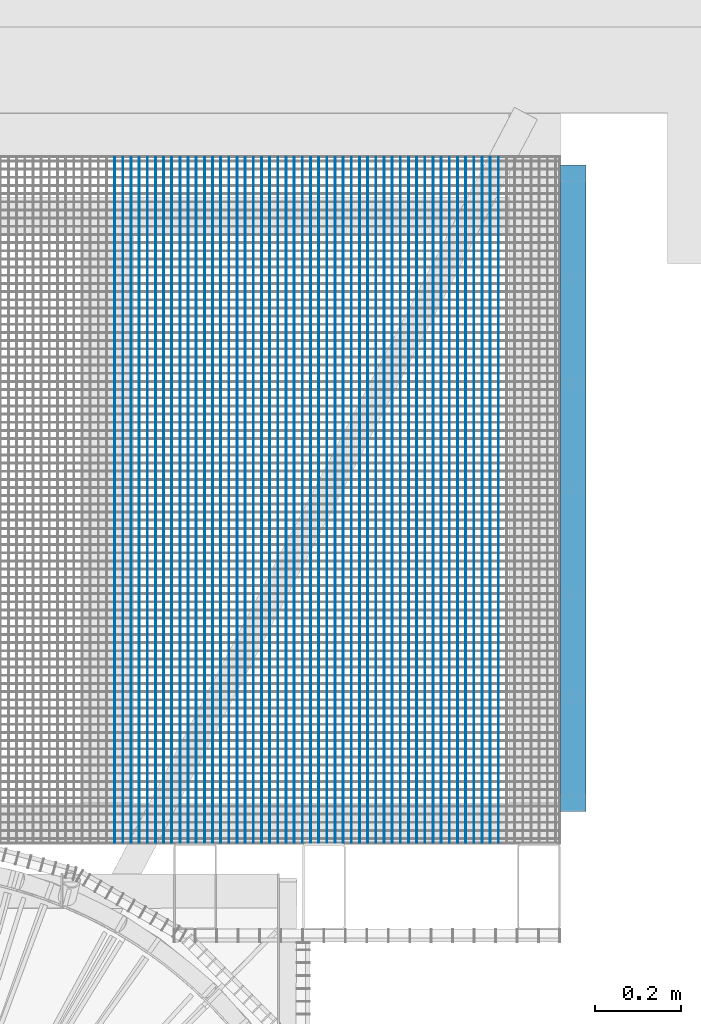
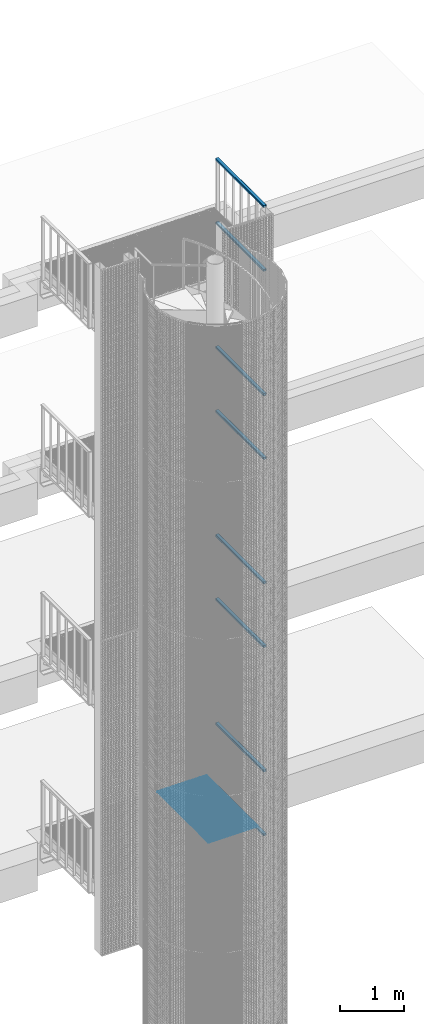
# One storey, part 89 of 1183: 56 beams, 9 elements without a shape of their own.
"""IFC2X3 building model written with IfcOpenShell, lengths in millimetres."""

from ifc_helpers import new_model, si_unit, frame, origin_with_axes, origin_2d_with_axis, place, context, subcontext, project, spatial, rectangle, hollow_rectangle, extrude, material, type_object, element, aggregate, save


model = new_model("IFC2X3")

# Units and contexts
model_context = context("Model", 3, precision=1e-05, world=origin_with_axes())
body_context = subcontext(model_context, "Body", "Model", "MODEL_VIEW")
ifc_project = project(units=[si_unit("LENGTHUNIT", "METRE", prefix="MILLI"), si_unit("AREAUNIT", "SQUARE_METRE"), si_unit("VOLUMEUNIT", "CUBIC_METRE"), si_unit("MASSUNIT", "GRAM", prefix="KILO"), si_unit("TIMEUNIT", "SECOND"), si_unit("PLANEANGLEUNIT", "RADIAN"), si_unit("SOLIDANGLEUNIT", "STERADIAN"), si_unit("THERMODYNAMICTEMPERATUREUNIT", "DEGREE_CELSIUS"), si_unit("LUMINOUSINTENSITYUNIT", "LUMEN")], contexts=[model_context])

# Site, building, storey
site_placement = place(None, origin_with_axes())
site = spatial("IfcSite", under=ifc_project, at=site_placement, Name="Undefined", CompositionType="ELEMENT")
building_placement = place(site_placement, origin_with_axes())
building = spatial("IfcBuilding", under=site, at=building_placement, Name="Undefined", CompositionType="ELEMENT")
storey_placement = place(building_placement, origin_with_axes())
storey = spatial("IfcBuildingStorey", under=building, at=storey_placement, Name="Undefined", CompositionType="ELEMENT", Elevation=0.0)

# Assembly, beams
assembly_1_placement = place(storey_placement, origin_with_axes())
assembly_1 = element("IfcElementAssembly", 1, at=assembly_1_placement, inside=storey, Name="BORDURE", AssemblyPlace="NOTDEFINED", PredefinedType="NOTDEFINED")
ifc_material = material(Name="STEEL/S235JR")
beam_type_1 = type_object("IfcBeamType", Name="PL2*10", PredefinedType="NOTDEFINED")
beam_1_placement = place(assembly_1_placement, frame((513.075424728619, 1102.00484400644, 6485.0), z_axis=(0.0, 0.0, 1.0), x_axis=(-4.50599999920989e-06, 0.999999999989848, 0.0)))
beam_1 = element("IfcBeam", 2, at=beam_1_placement, type_object=beam_type_1, material=ifc_material, Name="ENTRETOISE", context=body_context, shape_type="SweptSolid", body=[
    extrude(rectangle(XDim=2.0, YDim=10.0, at=origin_2d_with_axis()), frame((1596.0000000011, -1.35186458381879e-18, -7.27595761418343e-12), z_axis=(-1.0, 0.0, 0.0), x_axis=(0.0, -1.0, 0.0)), (0.0, 0.0, 1.0), 1596.0),
])
beam_2_placement = place(assembly_1_placement, frame((532.075424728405, 1102.00493752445, 6485.0), z_axis=(0.0, 0.0, 1.0), x_axis=(-4.50599999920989e-06, 0.999999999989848, 0.0)))
beam_2 = element("IfcBeam", 3, at=beam_2_placement, type_object=beam_type_1, material=ifc_material, Name="ENTRETOISE", context=body_context, shape_type="SweptSolid", body=[
    extrude(rectangle(XDim=2.0, YDim=10.0, at=origin_2d_with_axis()), frame((1596.0000000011, -1.35186458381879e-18, -7.27595761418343e-12), z_axis=(-1.0, 0.0, 0.0), x_axis=(0.0, -1.0, 0.0)), (0.0, 0.0, 1.0), 1596.0),
])
beam_3_placement = place(assembly_1_placement, frame((551.075424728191, 1102.00503104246, 6485.0), z_axis=(0.0, 0.0, 1.0), x_axis=(-4.50599999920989e-06, 0.999999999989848, 0.0)))
beam_3 = element("IfcBeam", 4, at=beam_3_placement, type_object=beam_type_1, material=ifc_material, Name="ENTRETOISE", context=body_context, shape_type="SweptSolid", body=[
    extrude(rectangle(XDim=2.0, YDim=10.0, at=origin_2d_with_axis()), frame((1596.0000000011, -1.35186458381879e-18, -7.27595761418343e-12), z_axis=(-1.0, 0.0, 0.0), x_axis=(0.0, -1.0, 0.0)), (0.0, 0.0, 1.0), 1596.0),
])
beam_4_placement = place(assembly_1_placement, frame((570.075424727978, 1102.00512456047, 6485.0), z_axis=(0.0, 0.0, 1.0), x_axis=(-4.50599999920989e-06, 0.999999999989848, 0.0)))
beam_4 = element("IfcBeam", 5, at=beam_4_placement, type_object=beam_type_1, material=ifc_material, Name="ENTRETOISE", context=body_context, shape_type="SweptSolid", body=[
    extrude(rectangle(XDim=2.0, YDim=10.0, at=origin_2d_with_axis()), frame((1596.0000000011, -1.35186458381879e-18, -7.27595761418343e-12), z_axis=(-1.0, 0.0, 0.0), x_axis=(0.0, -1.0, 0.0)), (0.0, 0.0, 1.0), 1596.0),
])
beam_5_placement = place(assembly_1_placement, frame((589.075424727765, 1102.00521807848, 6485.0), z_axis=(0.0, 0.0, 1.0), x_axis=(-4.50599999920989e-06, 0.999999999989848, 0.0)))
beam_5 = element("IfcBeam", 6, at=beam_5_placement, type_object=beam_type_1, material=ifc_material, Name="ENTRETOISE", context=body_context, shape_type="SweptSolid", body=[
    extrude(rectangle(XDim=2.0, YDim=10.0, at=origin_2d_with_axis()), frame((1596.0000000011, -1.35186458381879e-18, -7.27595761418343e-12), z_axis=(-1.0, 0.0, 0.0), x_axis=(0.0, -1.0, 0.0)), (0.0, 0.0, 1.0), 1596.0),
])
beam_6_placement = place(assembly_1_placement, frame((608.075424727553, 1102.00531159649, 6485.0), z_axis=(0.0, 0.0, 1.0), x_axis=(-4.50599999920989e-06, 0.999999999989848, 0.0)))
beam_6 = element("IfcBeam", 7, at=beam_6_placement, type_object=beam_type_1, material=ifc_material, Name="ENTRETOISE", context=body_context, shape_type="SweptSolid", body=[
    extrude(rectangle(XDim=2.0, YDim=10.0, at=origin_2d_with_axis()), frame((1596.0000000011, -1.35186458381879e-18, -7.27595761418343e-12), z_axis=(-1.0, 0.0, 0.0), x_axis=(0.0, -1.0, 0.0)), (0.0, 0.0, 1.0), 1596.0),
])
beam_7_placement = place(assembly_1_placement, frame((627.075424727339, 1102.0054051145, 6485.0), z_axis=(0.0, 0.0, 1.0), x_axis=(-4.50599999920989e-06, 0.999999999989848, 0.0)))
beam_7 = element("IfcBeam", 8, at=beam_7_placement, type_object=beam_type_1, material=ifc_material, Name="ENTRETOISE", context=body_context, shape_type="SweptSolid", body=[
    extrude(rectangle(XDim=2.0, YDim=10.0, at=origin_2d_with_axis()), frame((1596.0000000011, -1.35186458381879e-18, -7.27595761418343e-12), z_axis=(-1.0, 0.0, 0.0), x_axis=(0.0, -1.0, 0.0)), (0.0, 0.0, 1.0), 1596.0),
])
beam_8_placement = place(assembly_1_placement, frame((646.075424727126, 1102.0054986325, 6485.0), z_axis=(0.0, 0.0, 1.0), x_axis=(-4.50599999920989e-06, 0.999999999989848, 0.0)))
beam_8 = element("IfcBeam", 9, at=beam_8_placement, type_object=beam_type_1, material=ifc_material, Name="ENTRETOISE", context=body_context, shape_type="SweptSolid", body=[
    extrude(rectangle(XDim=2.0, YDim=10.0, at=origin_2d_with_axis()), frame((1596.0000000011, -1.35186458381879e-18, -7.27595761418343e-12), z_axis=(-1.0, 0.0, 0.0), x_axis=(0.0, -1.0, 0.0)), (0.0, 0.0, 1.0), 1596.0),
])
beam_9_placement = place(assembly_1_placement, frame((665.075424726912, 1102.00559215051, 6485.0), z_axis=(0.0, 0.0, 1.0), x_axis=(-4.50599999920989e-06, 0.999999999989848, 0.0)))
beam_9 = element("IfcBeam", 10, at=beam_9_placement, type_object=beam_type_1, material=ifc_material, Name="ENTRETOISE", context=body_context, shape_type="SweptSolid", body=[
    extrude(rectangle(XDim=2.0, YDim=10.0, at=origin_2d_with_axis()), frame((1596.0000000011, -1.35186458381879e-18, -7.27595761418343e-12), z_axis=(-1.0, 0.0, 0.0), x_axis=(0.0, -1.0, 0.0)), (0.0, 0.0, 1.0), 1596.0),
])
beam_10_placement = place(assembly_1_placement, frame((684.075424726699, 1102.00568566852, 6485.0), z_axis=(0.0, 0.0, 1.0), x_axis=(-4.50599999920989e-06, 0.999999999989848, 0.0)))
beam_10 = element("IfcBeam", 11, at=beam_10_placement, type_object=beam_type_1, material=ifc_material, Name="ENTRETOISE", context=body_context, shape_type="SweptSolid", body=[
    extrude(rectangle(XDim=2.0, YDim=10.0, at=origin_2d_with_axis()), frame((1596.0000000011, -1.35186458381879e-18, -7.27595761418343e-12), z_axis=(-1.0, 0.0, 0.0), x_axis=(0.0, -1.0, 0.0)), (0.0, 0.0, 1.0), 1596.0),
])
beam_11_placement = place(assembly_1_placement, frame((703.075424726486, 1102.00577918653, 6485.0), z_axis=(0.0, 0.0, 1.0), x_axis=(-4.50599999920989e-06, 0.999999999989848, 0.0)))
beam_11 = element("IfcBeam", 12, at=beam_11_placement, type_object=beam_type_1, material=ifc_material, Name="ENTRETOISE", context=body_context, shape_type="SweptSolid", body=[
    extrude(rectangle(XDim=2.0, YDim=10.0, at=origin_2d_with_axis()), frame((1596.0000000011, -1.35186458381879e-18, -7.27595761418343e-12), z_axis=(-1.0, 0.0, 0.0), x_axis=(0.0, -1.0, 0.0)), (0.0, 0.0, 1.0), 1596.0),
])
beam_12_placement = place(assembly_1_placement, frame((722.075424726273, 1102.00587270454, 6485.0), z_axis=(0.0, 0.0, 1.0), x_axis=(-4.50599999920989e-06, 0.999999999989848, 0.0)))
beam_12 = element("IfcBeam", 13, at=beam_12_placement, type_object=beam_type_1, material=ifc_material, Name="ENTRETOISE", context=body_context, shape_type="SweptSolid", body=[
    extrude(rectangle(XDim=2.0, YDim=10.0, at=origin_2d_with_axis()), frame((1596.0000000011, -1.35186458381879e-18, -7.27595761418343e-12), z_axis=(-1.0, 0.0, 0.0), x_axis=(0.0, -1.0, 0.0)), (0.0, 0.0, 1.0), 1596.0),
])
beam_13_placement = place(assembly_1_placement, frame((741.075424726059, 1102.00596622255, 6485.0), z_axis=(0.0, 0.0, 1.0), x_axis=(-4.50599999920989e-06, 0.999999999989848, 0.0)))
beam_13 = element("IfcBeam", 14, at=beam_13_placement, type_object=beam_type_1, material=ifc_material, Name="ENTRETOISE", context=body_context, shape_type="SweptSolid", body=[
    extrude(rectangle(XDim=2.0, YDim=10.0, at=origin_2d_with_axis()), frame((1596.0000000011, -1.35186458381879e-18, -7.27595761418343e-12), z_axis=(-1.0, 0.0, 0.0), x_axis=(0.0, -1.0, 0.0)), (0.0, 0.0, 1.0), 1596.0),
])
beam_14_placement = place(assembly_1_placement, frame((760.075424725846, 1102.00605974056, 6485.0), z_axis=(0.0, 0.0, 1.0), x_axis=(-4.50599999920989e-06, 0.999999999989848, 0.0)))
beam_14 = element("IfcBeam", 15, at=beam_14_placement, type_object=beam_type_1, material=ifc_material, Name="ENTRETOISE", context=body_context, shape_type="SweptSolid", body=[
    extrude(rectangle(XDim=2.0, YDim=10.0, at=origin_2d_with_axis()), frame((1596.0000000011, -1.35186458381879e-18, -7.27595761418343e-12), z_axis=(-1.0, 0.0, 0.0), x_axis=(0.0, -1.0, 0.0)), (0.0, 0.0, 1.0), 1596.0),
])
beam_15_placement = place(assembly_1_placement, frame((779.075424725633, 1102.00615325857, 6485.0), z_axis=(0.0, 0.0, 1.0), x_axis=(-4.50599999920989e-06, 0.999999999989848, 0.0)))
beam_15 = element("IfcBeam", 16, at=beam_15_placement, type_object=beam_type_1, material=ifc_material, Name="ENTRETOISE", context=body_context, shape_type="SweptSolid", body=[
    extrude(rectangle(XDim=2.0, YDim=10.0, at=origin_2d_with_axis()), frame((1596.0000000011, -1.35186458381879e-18, -7.27595761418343e-12), z_axis=(-1.0, 0.0, 0.0), x_axis=(0.0, -1.0, 0.0)), (0.0, 0.0, 1.0), 1596.0),
])
beam_16_placement = place(assembly_1_placement, frame((798.07542472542, 1102.00624677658, 6485.0), z_axis=(0.0, 0.0, 1.0), x_axis=(-4.50599999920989e-06, 0.999999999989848, 0.0)))
beam_16 = element("IfcBeam", 17, at=beam_16_placement, type_object=beam_type_1, material=ifc_material, Name="ENTRETOISE", context=body_context, shape_type="SweptSolid", body=[
    extrude(rectangle(XDim=2.0, YDim=10.0, at=origin_2d_with_axis()), frame((1596.0000000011, -1.35186458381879e-18, -7.27595761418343e-12), z_axis=(-1.0, 0.0, 0.0), x_axis=(0.0, -1.0, 0.0)), (0.0, 0.0, 1.0), 1596.0),
])
beam_17_placement = place(assembly_1_placement, frame((817.075424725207, 1102.00634029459, 6485.0), z_axis=(0.0, 0.0, 1.0), x_axis=(-4.50599999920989e-06, 0.999999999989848, 0.0)))
beam_17 = element("IfcBeam", 18, at=beam_17_placement, type_object=beam_type_1, material=ifc_material, Name="ENTRETOISE", context=body_context, shape_type="SweptSolid", body=[
    extrude(rectangle(XDim=2.0, YDim=10.0, at=origin_2d_with_axis()), frame((1596.0000000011, -1.35186458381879e-18, -7.27595761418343e-12), z_axis=(-1.0, 0.0, 0.0), x_axis=(0.0, -1.0, 0.0)), (0.0, 0.0, 1.0), 1596.0),
])
beam_18_placement = place(assembly_1_placement, frame((836.075424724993, 1102.00643381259, 6485.0), z_axis=(0.0, 0.0, 1.0), x_axis=(-4.50599999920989e-06, 0.999999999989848, 0.0)))
beam_18 = element("IfcBeam", 19, at=beam_18_placement, type_object=beam_type_1, material=ifc_material, Name="ENTRETOISE", context=body_context, shape_type="SweptSolid", body=[
    extrude(rectangle(XDim=2.0, YDim=10.0, at=origin_2d_with_axis()), frame((1596.0000000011, -1.35186458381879e-18, -7.27595761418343e-12), z_axis=(-1.0, 0.0, 0.0), x_axis=(0.0, -1.0, 0.0)), (0.0, 0.0, 1.0), 1596.0),
])
beam_19_placement = place(assembly_1_placement, frame((855.075424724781, 1102.0065273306, 6485.0), z_axis=(0.0, 0.0, 1.0), x_axis=(-4.50599999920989e-06, 0.999999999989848, 0.0)))
beam_19 = element("IfcBeam", 20, at=beam_19_placement, type_object=beam_type_1, material=ifc_material, Name="ENTRETOISE", context=body_context, shape_type="SweptSolid", body=[
    extrude(rectangle(XDim=2.0, YDim=10.0, at=origin_2d_with_axis()), frame((1596.0000000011, -1.35186458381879e-18, -7.27595761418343e-12), z_axis=(-1.0, 0.0, 0.0), x_axis=(0.0, -1.0, 0.0)), (0.0, 0.0, 1.0), 1596.0),
])
beam_20_placement = place(assembly_1_placement, frame((874.075424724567, 1102.00662084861, 6485.0), z_axis=(0.0, 0.0, 1.0), x_axis=(-4.50599999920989e-06, 0.999999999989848, 0.0)))
beam_20 = element("IfcBeam", 21, at=beam_20_placement, type_object=beam_type_1, material=ifc_material, Name="ENTRETOISE", context=body_context, shape_type="SweptSolid", body=[
    extrude(rectangle(XDim=2.0, YDim=10.0, at=origin_2d_with_axis()), frame((1596.0000000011, -1.35186458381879e-18, -7.27595761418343e-12), z_axis=(-1.0, 0.0, 0.0), x_axis=(0.0, -1.0, 0.0)), (0.0, 0.0, 1.0), 1596.0),
])
beam_21_placement = place(assembly_1_placement, frame((893.075424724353, 1102.00671436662, 6485.0), z_axis=(0.0, 0.0, 1.0), x_axis=(-4.50599999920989e-06, 0.999999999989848, 0.0)))
beam_21 = element("IfcBeam", 22, at=beam_21_placement, type_object=beam_type_1, material=ifc_material, Name="ENTRETOISE", context=body_context, shape_type="SweptSolid", body=[
    extrude(rectangle(XDim=2.0, YDim=10.0, at=origin_2d_with_axis()), frame((1596.0000000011, -1.35186458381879e-18, -7.27595761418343e-12), z_axis=(-1.0, 0.0, 0.0), x_axis=(0.0, -1.0, 0.0)), (0.0, 0.0, 1.0), 1596.0),
])
beam_22_placement = place(assembly_1_placement, frame((912.07542472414, 1102.00680788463, 6485.0), z_axis=(0.0, 0.0, 1.0), x_axis=(-4.50599999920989e-06, 0.999999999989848, 0.0)))
beam_22 = element("IfcBeam", 23, at=beam_22_placement, type_object=beam_type_1, material=ifc_material, Name="ENTRETOISE", context=body_context, shape_type="SweptSolid", body=[
    extrude(rectangle(XDim=2.0, YDim=10.0, at=origin_2d_with_axis()), frame((1596.0000000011, -1.35186458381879e-18, -7.27595761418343e-12), z_axis=(-1.0, 0.0, 0.0), x_axis=(0.0, -1.0, 0.0)), (0.0, 0.0, 1.0), 1596.0),
])
beam_23_placement = place(assembly_1_placement, frame((931.075424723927, 1102.00690140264, 6485.0), z_axis=(0.0, 0.0, 1.0), x_axis=(-4.50599999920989e-06, 0.999999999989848, 0.0)))
beam_23 = element("IfcBeam", 24, at=beam_23_placement, type_object=beam_type_1, material=ifc_material, Name="ENTRETOISE", context=body_context, shape_type="SweptSolid", body=[
    extrude(rectangle(XDim=2.0, YDim=10.0, at=origin_2d_with_axis()), frame((1596.0000000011, -1.35186458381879e-18, -7.27595761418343e-12), z_axis=(-1.0, 0.0, 0.0), x_axis=(0.0, -1.0, 0.0)), (0.0, 0.0, 1.0), 1596.0),
])
beam_24_placement = place(assembly_1_placement, frame((950.075424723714, 1102.00699492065, 6485.0), z_axis=(0.0, 0.0, 1.0), x_axis=(-4.50599999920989e-06, 0.999999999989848, 0.0)))
beam_24 = element("IfcBeam", 25, at=beam_24_placement, type_object=beam_type_1, material=ifc_material, Name="ENTRETOISE", context=body_context, shape_type="SweptSolid", body=[
    extrude(rectangle(XDim=2.0, YDim=10.0, at=origin_2d_with_axis()), frame((1596.0000000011, -1.35186458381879e-18, -7.27595761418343e-12), z_axis=(-1.0, 0.0, 0.0), x_axis=(0.0, -1.0, 0.0)), (0.0, 0.0, 1.0), 1596.0),
])
beam_25_placement = place(assembly_1_placement, frame((969.0754247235, 1102.00708843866, 6485.0), z_axis=(0.0, 0.0, 1.0), x_axis=(-4.50599999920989e-06, 0.999999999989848, 0.0)))
beam_25 = element("IfcBeam", 26, at=beam_25_placement, type_object=beam_type_1, material=ifc_material, Name="ENTRETOISE", context=body_context, shape_type="SweptSolid", body=[
    extrude(rectangle(XDim=2.0, YDim=10.0, at=origin_2d_with_axis()), frame((1596.0000000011, -1.35186458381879e-18, -7.27595761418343e-12), z_axis=(-1.0, 0.0, 0.0), x_axis=(0.0, -1.0, 0.0)), (0.0, 0.0, 1.0), 1596.0),
])
beam_26_placement = place(assembly_1_placement, frame((988.075424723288, 1102.00718195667, 6485.0), z_axis=(0.0, 0.0, 1.0), x_axis=(-4.50599999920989e-06, 0.999999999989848, 0.0)))
beam_26 = element("IfcBeam", 27, at=beam_26_placement, type_object=beam_type_1, material=ifc_material, Name="ENTRETOISE", context=body_context, shape_type="SweptSolid", body=[
    extrude(rectangle(XDim=2.0, YDim=10.0, at=origin_2d_with_axis()), frame((1596.0000000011, -1.35186458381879e-18, -7.27595761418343e-12), z_axis=(-1.0, 0.0, 0.0), x_axis=(0.0, -1.0, 0.0)), (0.0, 0.0, 1.0), 1596.0),
])
beam_27_placement = place(assembly_1_placement, frame((1007.07542472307, 1102.00727547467, 6485.0), z_axis=(0.0, 0.0, 1.0), x_axis=(-4.50599999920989e-06, 0.999999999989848, 0.0)))
beam_27 = element("IfcBeam", 28, at=beam_27_placement, type_object=beam_type_1, material=ifc_material, Name="ENTRETOISE", context=body_context, shape_type="SweptSolid", body=[
    extrude(rectangle(XDim=2.0, YDim=10.0, at=origin_2d_with_axis()), frame((1596.0000000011, -1.35186458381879e-18, -7.27595761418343e-12), z_axis=(-1.0, 0.0, 0.0), x_axis=(0.0, -1.0, 0.0)), (0.0, 0.0, 1.0), 1596.0),
])
beam_28_placement = place(assembly_1_placement, frame((1026.07542472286, 1102.00736899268, 6485.0), z_axis=(0.0, 0.0, 1.0), x_axis=(-4.50599999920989e-06, 0.999999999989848, 0.0)))
beam_28 = element("IfcBeam", 29, at=beam_28_placement, type_object=beam_type_1, material=ifc_material, Name="ENTRETOISE", context=body_context, shape_type="SweptSolid", body=[
    extrude(rectangle(XDim=2.0, YDim=10.0, at=origin_2d_with_axis()), frame((1596.0000000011, -1.35186458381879e-18, -7.27595761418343e-12), z_axis=(-1.0, 0.0, 0.0), x_axis=(0.0, -1.0, 0.0)), (0.0, 0.0, 1.0), 1596.0),
])
beam_29_placement = place(assembly_1_placement, frame((1045.07542472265, 1102.00746251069, 6485.0), z_axis=(0.0, 0.0, 1.0), x_axis=(-4.50599999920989e-06, 0.999999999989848, 0.0)))
beam_29 = element("IfcBeam", 30, at=beam_29_placement, type_object=beam_type_1, material=ifc_material, Name="ENTRETOISE", context=body_context, shape_type="SweptSolid", body=[
    extrude(rectangle(XDim=2.0, YDim=10.0, at=origin_2d_with_axis()), frame((1596.0000000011, -1.35186458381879e-18, -7.27595761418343e-12), z_axis=(-1.0, 0.0, 0.0), x_axis=(0.0, -1.0, 0.0)), (0.0, 0.0, 1.0), 1596.0),
])
beam_30_placement = place(assembly_1_placement, frame((1064.07542472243, 1102.0075560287, 6485.0), z_axis=(0.0, 0.0, 1.0), x_axis=(-4.50599999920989e-06, 0.999999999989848, 0.0)))
beam_30 = element("IfcBeam", 31, at=beam_30_placement, type_object=beam_type_1, material=ifc_material, Name="ENTRETOISE", context=body_context, shape_type="SweptSolid", body=[
    extrude(rectangle(XDim=2.0, YDim=10.0, at=origin_2d_with_axis()), frame((1596.0000000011, -1.35186458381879e-18, -7.27595761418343e-12), z_axis=(-1.0, 0.0, 0.0), x_axis=(0.0, -1.0, 0.0)), (0.0, 0.0, 1.0), 1596.0),
])
beam_31_placement = place(assembly_1_placement, frame((1083.07542472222, 1102.00764954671, 6485.0), z_axis=(0.0, 0.0, 1.0), x_axis=(-4.50599999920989e-06, 0.999999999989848, 0.0)))
beam_31 = element("IfcBeam", 32, at=beam_31_placement, type_object=beam_type_1, material=ifc_material, Name="ENTRETOISE", context=body_context, shape_type="SweptSolid", body=[
    extrude(rectangle(XDim=2.0, YDim=10.0, at=origin_2d_with_axis()), frame((1596.0000000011, -1.35186458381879e-18, -7.27595761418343e-12), z_axis=(-1.0, 0.0, 0.0), x_axis=(0.0, -1.0, 0.0)), (0.0, 0.0, 1.0), 1596.0),
])
beam_32_placement = place(assembly_1_placement, frame((1102.07542472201, 1102.00774306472, 6485.0), z_axis=(0.0, 0.0, 1.0), x_axis=(-4.50599999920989e-06, 0.999999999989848, 0.0)))
beam_32 = element("IfcBeam", 33, at=beam_32_placement, type_object=beam_type_1, material=ifc_material, Name="ENTRETOISE", context=body_context, shape_type="SweptSolid", body=[
    extrude(rectangle(XDim=2.0, YDim=10.0, at=origin_2d_with_axis()), frame((1596.0000000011, -1.35186458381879e-18, -7.27595761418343e-12), z_axis=(-1.0, 0.0, 0.0), x_axis=(0.0, -1.0, 0.0)), (0.0, 0.0, 1.0), 1596.0),
])
beam_33_placement = place(assembly_1_placement, frame((1121.07542472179, 1102.00783658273, 6485.0), z_axis=(0.0, 0.0, 1.0), x_axis=(-4.50599999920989e-06, 0.999999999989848, 0.0)))
beam_33 = element("IfcBeam", 34, at=beam_33_placement, type_object=beam_type_1, material=ifc_material, Name="ENTRETOISE", context=body_context, shape_type="SweptSolid", body=[
    extrude(rectangle(XDim=2.0, YDim=10.0, at=origin_2d_with_axis()), frame((1596.0000000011, -1.35186458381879e-18, -7.27595761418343e-12), z_axis=(-1.0, 0.0, 0.0), x_axis=(0.0, -1.0, 0.0)), (0.0, 0.0, 1.0), 1596.0),
])
beam_34_placement = place(assembly_1_placement, frame((1140.07542472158, 1102.00793010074, 6485.0), z_axis=(0.0, 0.0, 1.0), x_axis=(-4.50599999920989e-06, 0.999999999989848, 0.0)))
beam_34 = element("IfcBeam", 35, at=beam_34_placement, type_object=beam_type_1, material=ifc_material, Name="ENTRETOISE", context=body_context, shape_type="SweptSolid", body=[
    extrude(rectangle(XDim=2.0, YDim=10.0, at=origin_2d_with_axis()), frame((1596.0000000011, -1.35186458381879e-18, -7.27595761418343e-12), z_axis=(-1.0, 0.0, 0.0), x_axis=(0.0, -1.0, 0.0)), (0.0, 0.0, 1.0), 1596.0),
])
beam_35_placement = place(assembly_1_placement, frame((1159.07542472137, 1102.00802361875, 6485.0), z_axis=(0.0, 0.0, 1.0), x_axis=(-4.50599999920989e-06, 0.999999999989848, 0.0)))
beam_35 = element("IfcBeam", 36, at=beam_35_placement, type_object=beam_type_1, material=ifc_material, Name="ENTRETOISE", context=body_context, shape_type="SweptSolid", body=[
    extrude(rectangle(XDim=2.0, YDim=10.0, at=origin_2d_with_axis()), frame((1596.0000000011, -1.35186458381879e-18, -7.27595761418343e-12), z_axis=(-1.0, 0.0, 0.0), x_axis=(0.0, -1.0, 0.0)), (0.0, 0.0, 1.0), 1596.0),
])
beam_36_placement = place(assembly_1_placement, frame((1178.07542472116, 1102.00811713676, 6485.0), z_axis=(0.0, 0.0, 1.0), x_axis=(-4.50599999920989e-06, 0.999999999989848, 0.0)))
beam_36 = element("IfcBeam", 37, at=beam_36_placement, type_object=beam_type_1, material=ifc_material, Name="ENTRETOISE", context=body_context, shape_type="SweptSolid", body=[
    extrude(rectangle(XDim=2.0, YDim=10.0, at=origin_2d_with_axis()), frame((1596.0000000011, -1.35186458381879e-18, -7.27595761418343e-12), z_axis=(-1.0, 0.0, 0.0), x_axis=(0.0, -1.0, 0.0)), (0.0, 0.0, 1.0), 1596.0),
])
beam_37_placement = place(assembly_1_placement, frame((1197.07542472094, 1102.00821065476, 6485.0), z_axis=(0.0, 0.0, 1.0), x_axis=(-4.50599999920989e-06, 0.999999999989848, 0.0)))
beam_37 = element("IfcBeam", 38, at=beam_37_placement, type_object=beam_type_1, material=ifc_material, Name="ENTRETOISE", context=body_context, shape_type="SweptSolid", body=[
    extrude(rectangle(XDim=2.0, YDim=10.0, at=origin_2d_with_axis()), frame((1596.0000000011, -1.35186458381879e-18, -7.27595761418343e-12), z_axis=(-1.0, 0.0, 0.0), x_axis=(0.0, -1.0, 0.0)), (0.0, 0.0, 1.0), 1596.0),
])
beam_38_placement = place(assembly_1_placement, frame((1216.07542472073, 1102.00830417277, 6485.0), z_axis=(0.0, 0.0, 1.0), x_axis=(-4.50599999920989e-06, 0.999999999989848, 0.0)))
beam_38 = element("IfcBeam", 39, at=beam_38_placement, type_object=beam_type_1, material=ifc_material, Name="ENTRETOISE", context=body_context, shape_type="SweptSolid", body=[
    extrude(rectangle(XDim=2.0, YDim=10.0, at=origin_2d_with_axis()), frame((1596.0000000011, -1.35186458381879e-18, -7.27595761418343e-12), z_axis=(-1.0, 0.0, 0.0), x_axis=(0.0, -1.0, 0.0)), (0.0, 0.0, 1.0), 1596.0),
])
beam_39_placement = place(assembly_1_placement, frame((1235.07542472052, 1102.00839769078, 6485.0), z_axis=(0.0, 0.0, 1.0), x_axis=(-4.50599999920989e-06, 0.999999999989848, 0.0)))
beam_39 = element("IfcBeam", 40, at=beam_39_placement, type_object=beam_type_1, material=ifc_material, Name="ENTRETOISE", context=body_context, shape_type="SweptSolid", body=[
    extrude(rectangle(XDim=2.0, YDim=10.0, at=origin_2d_with_axis()), frame((1596.0000000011, -1.35186458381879e-18, -7.27595761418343e-12), z_axis=(-1.0, 0.0, 0.0), x_axis=(0.0, -1.0, 0.0)), (0.0, 0.0, 1.0), 1596.0),
])
beam_40_placement = place(assembly_1_placement, frame((1254.0754247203, 1102.00849120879, 6485.0), z_axis=(0.0, 0.0, 1.0), x_axis=(-4.50599999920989e-06, 0.999999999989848, 0.0)))
beam_40 = element("IfcBeam", 41, at=beam_40_placement, type_object=beam_type_1, material=ifc_material, Name="ENTRETOISE", context=body_context, shape_type="SweptSolid", body=[
    extrude(rectangle(XDim=2.0, YDim=10.0, at=origin_2d_with_axis()), frame((1596.0000000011, -1.35186458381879e-18, -7.27595761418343e-12), z_axis=(-1.0, 0.0, 0.0), x_axis=(0.0, -1.0, 0.0)), (0.0, 0.0, 1.0), 1596.0),
])
beam_41_placement = place(assembly_1_placement, frame((1273.07542472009, 1102.0085847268, 6485.0), z_axis=(0.0, 0.0, 1.0), x_axis=(-4.50599999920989e-06, 0.999999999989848, 0.0)))
beam_41 = element("IfcBeam", 42, at=beam_41_placement, type_object=beam_type_1, material=ifc_material, Name="ENTRETOISE", context=body_context, shape_type="SweptSolid", body=[
    extrude(rectangle(XDim=2.0, YDim=10.0, at=origin_2d_with_axis()), frame((1596.0000000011, -1.35186458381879e-18, -7.27595761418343e-12), z_axis=(-1.0, 0.0, 0.0), x_axis=(0.0, -1.0, 0.0)), (0.0, 0.0, 1.0), 1596.0),
])
beam_42_placement = place(assembly_1_placement, frame((1292.07542471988, 1102.00867824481, 6485.0), z_axis=(0.0, 0.0, 1.0), x_axis=(-4.50599999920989e-06, 0.999999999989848, 0.0)))
beam_42 = element("IfcBeam", 43, at=beam_42_placement, type_object=beam_type_1, material=ifc_material, Name="ENTRETOISE", context=body_context, shape_type="SweptSolid", body=[
    extrude(rectangle(XDim=2.0, YDim=10.0, at=origin_2d_with_axis()), frame((1596.0000000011, -1.35186458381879e-18, -7.27595761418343e-12), z_axis=(-1.0, 0.0, 0.0), x_axis=(0.0, -1.0, 0.0)), (0.0, 0.0, 1.0), 1596.0),
])
beam_43_placement = place(assembly_1_placement, frame((1311.07542471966, 1102.00877176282, 6485.0), z_axis=(0.0, 0.0, 1.0), x_axis=(-4.50599999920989e-06, 0.999999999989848, 0.0)))
beam_43 = element("IfcBeam", 44, at=beam_43_placement, type_object=beam_type_1, material=ifc_material, Name="ENTRETOISE", context=body_context, shape_type="SweptSolid", body=[
    extrude(rectangle(XDim=2.0, YDim=10.0, at=origin_2d_with_axis()), frame((1596.0000000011, -1.35186458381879e-18, -7.27595761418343e-12), z_axis=(-1.0, 0.0, 0.0), x_axis=(0.0, -1.0, 0.0)), (0.0, 0.0, 1.0), 1596.0),
])
beam_44_placement = place(assembly_1_placement, frame((1330.07542471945, 1102.00886528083, 6485.0), z_axis=(0.0, 0.0, 1.0), x_axis=(-4.50599999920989e-06, 0.999999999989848, 0.0)))
beam_44 = element("IfcBeam", 45, at=beam_44_placement, type_object=beam_type_1, material=ifc_material, Name="ENTRETOISE", context=body_context, shape_type="SweptSolid", body=[
    extrude(rectangle(XDim=2.0, YDim=10.0, at=origin_2d_with_axis()), frame((1596.0000000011, -1.35186458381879e-18, -7.27595761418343e-12), z_axis=(-1.0, 0.0, 0.0), x_axis=(0.0, -1.0, 0.0)), (0.0, 0.0, 1.0), 1596.0),
])
beam_45_placement = place(assembly_1_placement, frame((1349.07542471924, 1102.00895879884, 6485.0), z_axis=(0.0, 0.0, 1.0), x_axis=(-4.50599999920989e-06, 0.999999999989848, 0.0)))
beam_45 = element("IfcBeam", 46, at=beam_45_placement, type_object=beam_type_1, material=ifc_material, Name="ENTRETOISE", context=body_context, shape_type="SweptSolid", body=[
    extrude(rectangle(XDim=2.0, YDim=10.0, at=origin_2d_with_axis()), frame((1596.0000000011, -1.35186458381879e-18, -7.27595761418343e-12), z_axis=(-1.0, 0.0, 0.0), x_axis=(0.0, -1.0, 0.0)), (0.0, 0.0, 1.0), 1596.0),
])
beam_46_placement = place(assembly_1_placement, frame((1368.07542471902, 1102.00905231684, 6485.0), z_axis=(0.0, 0.0, 1.0), x_axis=(-4.50599999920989e-06, 0.999999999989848, 0.0)))
beam_46 = element("IfcBeam", 47, at=beam_46_placement, type_object=beam_type_1, material=ifc_material, Name="ENTRETOISE", context=body_context, shape_type="SweptSolid", body=[
    extrude(rectangle(XDim=2.0, YDim=10.0, at=origin_2d_with_axis()), frame((1596.0000000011, -1.35186458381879e-18, -7.27595761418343e-12), z_axis=(-1.0, 0.0, 0.0), x_axis=(0.0, -1.0, 0.0)), (0.0, 0.0, 1.0), 1596.0),
])
beam_47_placement = place(assembly_1_placement, frame((1387.07542471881, 1102.00914583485, 6485.0), z_axis=(0.0, 0.0, 1.0), x_axis=(-4.50599999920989e-06, 0.999999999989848, 0.0)))
beam_47 = element("IfcBeam", 48, at=beam_47_placement, type_object=beam_type_1, material=ifc_material, Name="ENTRETOISE", context=body_context, shape_type="SweptSolid", body=[
    extrude(rectangle(XDim=2.0, YDim=10.0, at=origin_2d_with_axis()), frame((1596.0000000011, -1.35186458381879e-18, -7.27595761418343e-12), z_axis=(-1.0, 0.0, 0.0), x_axis=(0.0, -1.0, 0.0)), (0.0, 0.0, 1.0), 1596.0),
])
beam_48_placement = place(assembly_1_placement, frame((1406.0754247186, 1102.00923935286, 6485.0), z_axis=(0.0, 0.0, 1.0), x_axis=(-4.50599999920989e-06, 0.999999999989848, 0.0)))
beam_48 = element("IfcBeam", 49, at=beam_48_placement, type_object=beam_type_1, material=ifc_material, Name="ENTRETOISE", context=body_context, shape_type="SweptSolid", body=[
    extrude(rectangle(XDim=2.0, YDim=10.0, at=origin_2d_with_axis()), frame((1596.0000000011, -1.35186458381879e-18, -7.27595761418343e-12), z_axis=(-1.0, 0.0, 0.0), x_axis=(0.0, -1.0, 0.0)), (0.0, 0.0, 1.0), 1596.0),
])
aggregate(assembly_1, [beam_1, beam_2, beam_3, beam_4, beam_5, beam_6, beam_7, beam_8, beam_9, beam_10, beam_11, beam_12, beam_13, beam_14, beam_15, beam_16, beam_17, beam_18, beam_19, beam_20, beam_21, beam_22, beam_23, beam_24, beam_25, beam_26, beam_27, beam_28, beam_29, beam_30, beam_31, beam_32, beam_33, beam_34, beam_35, beam_36, beam_37, beam_38, beam_39, beam_40, beam_41, beam_42, beam_43, beam_44, beam_45, beam_46, beam_47, beam_48])

# Assembly, beam
assembly_2_placement = place(storey_placement, origin_with_axes())
assembly_2 = element("IfcElementAssembly", 50, at=assembly_2_placement, inside=storey, Name="RAILING", AssemblyPlace="NOTDEFINED", PredefinedType="NOTDEFINED")
beam_type_2 = type_object("IfcBeamType", Name="TUBE-R-60*40*3", PredefinedType="NOTDEFINED")
beam_49_placement = place(assembly_2_placement, frame((1580.07043456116, 1175.01007484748, 17020.0), z_axis=(-0.999999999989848, -4.50599999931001e-06, 0.0), x_axis=(-4.50599999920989e-06, 0.999999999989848, 0.0)))
beam_49 = element("IfcBeam", 51, at=beam_49_placement, type_object=beam_type_2, material=ifc_material, Name="RAILING", context=body_context, shape_type="SweptSolid", body=[
    extrude(hollow_rectangle(XDim=40.0, YDim=60.0, WallThickness=3.0, InnerFilletRadius=3.0, OuterFilletRadius=6.0, at=origin_2d_with_axis()), frame((1504.99832798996, 3.63797880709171e-12, -1.27478316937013e-18), z_axis=(-1.0, 0.0, 0.0), x_axis=(0.0, -1.0, 0.0)), (0.0, 0.0, 1.0), 1505.0),
])
aggregate(assembly_2, [beam_49])

assembly_3_placement = place(storey_placement, origin_with_axes())
assembly_3 = element("IfcElementAssembly", 52, at=assembly_3_placement, inside=storey, Name="RAILING", AssemblyPlace="NOTDEFINED", PredefinedType="NOTDEFINED")
beam_50_placement = place(assembly_3_placement, frame((1580.07043456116, 1175.01007484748, 18240.0), z_axis=(-0.999999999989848, -4.50599999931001e-06, 0.0), x_axis=(-4.50599999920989e-06, 0.999999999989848, 0.0)))
beam_50 = element("IfcBeam", 53, at=beam_50_placement, type_object=beam_type_2, material=ifc_material, Name="RAILING", context=body_context, shape_type="SweptSolid", body=[
    extrude(hollow_rectangle(XDim=40.0, YDim=60.0, WallThickness=3.0, InnerFilletRadius=3.0, OuterFilletRadius=6.0, at=origin_2d_with_axis()), frame((1504.99832798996, 3.63797880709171e-12, -1.27478316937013e-18), z_axis=(-1.0, 0.0, 0.0), x_axis=(0.0, -1.0, 0.0)), (0.0, 0.0, 1.0), 1505.0),
])
aggregate(assembly_3, [beam_50])

assembly_4_placement = place(storey_placement, origin_with_axes())
assembly_4 = element("IfcElementAssembly", 54, at=assembly_4_placement, inside=storey, Name="RAILING", AssemblyPlace="NOTDEFINED", PredefinedType="NOTDEFINED")
beam_51_placement = place(assembly_4_placement, frame((1580.07043456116, 1175.01007484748, 13420.0), z_axis=(-0.999999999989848, -4.50599999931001e-06, 0.0), x_axis=(-4.50599999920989e-06, 0.999999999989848, 0.0)))
beam_51 = element("IfcBeam", 55, at=beam_51_placement, type_object=beam_type_2, material=ifc_material, Name="RAILING", context=body_context, shape_type="SweptSolid", body=[
    extrude(hollow_rectangle(XDim=40.0, YDim=60.0, WallThickness=3.0, InnerFilletRadius=3.0, OuterFilletRadius=6.0, at=origin_2d_with_axis()), frame((1504.99832798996, 3.63797880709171e-12, -1.27478316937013e-18), z_axis=(-1.0, 0.0, 0.0), x_axis=(0.0, -1.0, 0.0)), (0.0, 0.0, 1.0), 1505.0),
])
aggregate(assembly_4, [beam_51])

assembly_5_placement = place(storey_placement, origin_with_axes())
assembly_5 = element("IfcElementAssembly", 56, at=assembly_5_placement, inside=storey, Name="RAILING", AssemblyPlace="NOTDEFINED", PredefinedType="NOTDEFINED")
beam_52_placement = place(assembly_5_placement, frame((1580.07043456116, 1175.01007484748, 14640.0), z_axis=(-0.999999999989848, -4.50599999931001e-06, 0.0), x_axis=(-4.50599999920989e-06, 0.999999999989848, 0.0)))
beam_52 = element("IfcBeam", 57, at=beam_52_placement, type_object=beam_type_2, material=ifc_material, Name="RAILING", context=body_context, shape_type="SweptSolid", body=[
    extrude(hollow_rectangle(XDim=40.0, YDim=60.0, WallThickness=3.0, InnerFilletRadius=3.0, OuterFilletRadius=6.0, at=origin_2d_with_axis()), frame((1504.99832798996, 3.63797880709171e-12, -1.27478316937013e-18), z_axis=(-1.0, 0.0, 0.0), x_axis=(0.0, -1.0, 0.0)), (0.0, 0.0, 1.0), 1505.0),
])
aggregate(assembly_5, [beam_52])

assembly_6_placement = place(storey_placement, origin_with_axes())
assembly_6 = element("IfcElementAssembly", 58, at=assembly_6_placement, inside=storey, Name="RAILING", AssemblyPlace="NOTDEFINED", PredefinedType="NOTDEFINED")
beam_53_placement = place(assembly_6_placement, frame((1580.07043456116, 1175.01007484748, 9820.0), z_axis=(-0.999999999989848, -4.50599999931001e-06, 0.0), x_axis=(-4.50599999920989e-06, 0.999999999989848, 0.0)))
beam_53 = element("IfcBeam", 59, at=beam_53_placement, type_object=beam_type_2, material=ifc_material, Name="RAILING", context=body_context, shape_type="SweptSolid", body=[
    extrude(hollow_rectangle(XDim=40.0, YDim=60.0, WallThickness=3.0, InnerFilletRadius=3.0, OuterFilletRadius=6.0, at=origin_2d_with_axis()), frame((1504.99832798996, 3.63797880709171e-12, -1.27478316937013e-18), z_axis=(-1.0, 0.0, 0.0), x_axis=(0.0, -1.0, 0.0)), (0.0, 0.0, 1.0), 1505.0),
])
aggregate(assembly_6, [beam_53])

assembly_7_placement = place(storey_placement, origin_with_axes())
assembly_7 = element("IfcElementAssembly", 60, at=assembly_7_placement, inside=storey, Name="RAILING", AssemblyPlace="NOTDEFINED", PredefinedType="NOTDEFINED")
beam_54_placement = place(assembly_7_placement, frame((1580.07043456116, 1175.01007484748, 11040.0), z_axis=(-0.999999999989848, -4.50599999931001e-06, 0.0), x_axis=(-4.50599999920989e-06, 0.999999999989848, 0.0)))
beam_54 = element("IfcBeam", 61, at=beam_54_placement, type_object=beam_type_2, material=ifc_material, Name="RAILING", context=body_context, shape_type="SweptSolid", body=[
    extrude(hollow_rectangle(XDim=40.0, YDim=60.0, WallThickness=3.0, InnerFilletRadius=3.0, OuterFilletRadius=6.0, at=origin_2d_with_axis()), frame((1504.99832798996, 3.63797880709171e-12, -1.27478316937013e-18), z_axis=(-1.0, 0.0, 0.0), x_axis=(0.0, -1.0, 0.0)), (0.0, 0.0, 1.0), 1505.0),
])
aggregate(assembly_7, [beam_54])

assembly_8_placement = place(storey_placement, origin_with_axes())
assembly_8 = element("IfcElementAssembly", 62, at=assembly_8_placement, inside=storey, Name="RAILING", AssemblyPlace="NOTDEFINED", PredefinedType="NOTDEFINED")
beam_55_placement = place(assembly_8_placement, frame((1580.07043456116, 1175.01007484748, 6220.0), z_axis=(-0.999999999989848, -4.50599999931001e-06, 0.0), x_axis=(-4.50599999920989e-06, 0.999999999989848, 0.0)))
beam_55 = element("IfcBeam", 63, at=beam_55_placement, type_object=beam_type_2, material=ifc_material, Name="RAILING", context=body_context, shape_type="SweptSolid", body=[
    extrude(hollow_rectangle(XDim=40.0, YDim=60.0, WallThickness=3.0, InnerFilletRadius=3.0, OuterFilletRadius=6.0, at=origin_2d_with_axis()), frame((1504.99832798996, 3.63797880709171e-12, -1.27478316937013e-18), z_axis=(-1.0, 0.0, 0.0), x_axis=(0.0, -1.0, 0.0)), (0.0, 0.0, 1.0), 1505.0),
])
aggregate(assembly_8, [beam_55])

assembly_9_placement = place(storey_placement, origin_with_axes())
assembly_9 = element("IfcElementAssembly", 64, at=assembly_9_placement, inside=storey, Name="RAILING", AssemblyPlace="NOTDEFINED", PredefinedType="NOTDEFINED")
beam_56_placement = place(assembly_9_placement, frame((1580.07043456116, 1175.01007484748, 7440.0), z_axis=(-0.999999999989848, -4.50599999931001e-06, 0.0), x_axis=(-4.50599999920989e-06, 0.999999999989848, 0.0)))
beam_56 = element("IfcBeam", 65, at=beam_56_placement, type_object=beam_type_2, material=ifc_material, Name="RAILING", context=body_context, shape_type="SweptSolid", body=[
    extrude(hollow_rectangle(XDim=40.0, YDim=60.0, WallThickness=3.0, InnerFilletRadius=3.0, OuterFilletRadius=6.0, at=origin_2d_with_axis()), frame((1504.99832798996, 3.63797880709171e-12, -1.27478316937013e-18), z_axis=(-1.0, 0.0, 0.0), x_axis=(0.0, -1.0, 0.0)), (0.0, 0.0, 1.0), 1505.0),
])
aggregate(assembly_9, [beam_56])

save(model, "model.ifc")
